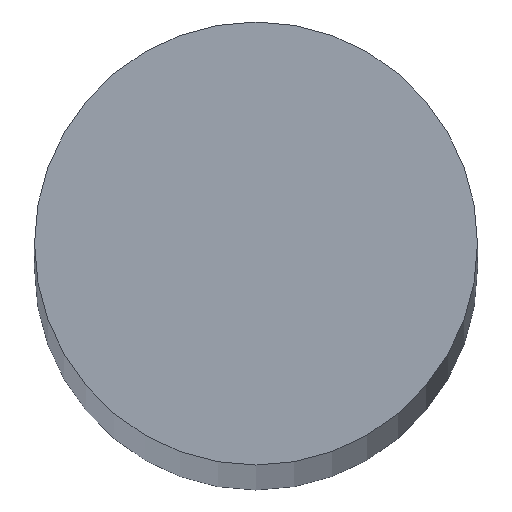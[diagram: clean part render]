
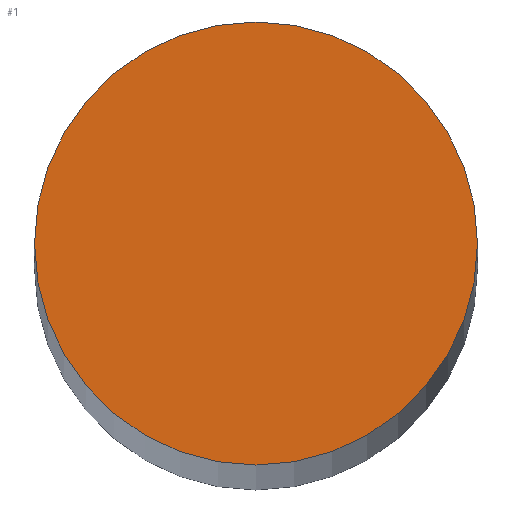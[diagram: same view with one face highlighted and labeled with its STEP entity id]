
A CAD part, top view. The second image highlights one B-rep face of the part: STEP entity #1.
In plain terms, the highlighted planar face has unit normal (0, 0, 1).
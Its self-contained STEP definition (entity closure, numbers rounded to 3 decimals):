
#1 = ADVANCED_FACE ( 'NONE', ( #88 ), #21, .T. ) ;
#16 = DIRECTION ( 'NONE',  ( 0., 0., 1. ) ) ;
#17 = VERTEX_POINT ( 'NONE', #20 ) ;
#19 = VERTEX_POINT ( 'NONE', #60 ) ;
#20 = CARTESIAN_POINT ( 'NONE',  ( -6., 0., 193.5 ) ) ;
#21 = PLANE ( 'NONE',  #125 ) ;
#22 = CARTESIAN_POINT ( 'NONE',  ( 0., 0., 193.5 ) ) ;
#46 = DIRECTION ( 'NONE',  ( 1., 0., 0. ) ) ;
#47 = DIRECTION ( 'NONE',  ( 0., 0., 1. ) ) ;
#49 = CARTESIAN_POINT ( 'NONE',  ( 0., 0., 193.5 ) ) ;
#52 = DIRECTION ( 'NONE',  ( 1., 0., 0. ) ) ;
#53 = DIRECTION ( 'NONE',  ( 0., 0., 1. ) ) ;
#54 = CARTESIAN_POINT ( 'NONE',  ( 0., 0., 193.5 ) ) ;
#60 = CARTESIAN_POINT ( 'NONE',  ( 6., 0., 193.5 ) ) ;
#67 = DIRECTION ( 'NONE',  ( 1., 0., 0. ) ) ;
#79 = ORIENTED_EDGE ( 'NONE', *, *, #115, .T. ) ;
#81 = ORIENTED_EDGE ( 'NONE', *, *, #123, .T. ) ;
#84 = EDGE_LOOP ( 'NONE', ( #81, #79 ) ) ;
#88 = FACE_OUTER_BOUND ( 'NONE', #84, .T. ) ;
#97 = CIRCLE ( 'NONE', #112, 6. ) ;
#100 = CIRCLE ( 'NONE', #130, 6. ) ;
#112 = AXIS2_PLACEMENT_3D ( 'NONE', #54, #53, #52 ) ;
#115 = EDGE_CURVE ( 'NONE', #19, #17, #97, .T. ) ;
#123 = EDGE_CURVE ( 'NONE', #17, #19, #100, .T. ) ;
#125 = AXIS2_PLACEMENT_3D ( 'NONE', #22, #16, #67 ) ;
#130 = AXIS2_PLACEMENT_3D ( 'NONE', #49, #47, #46 ) ;
